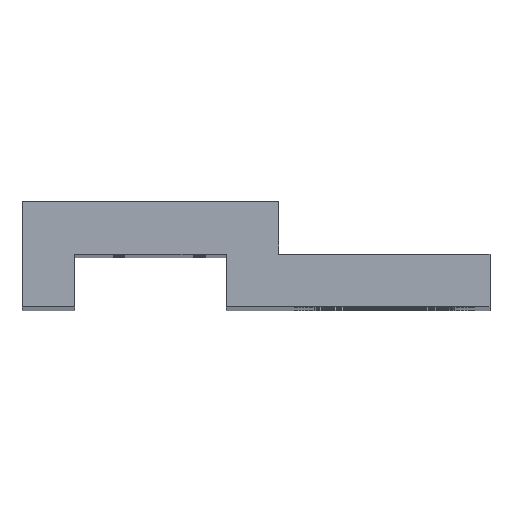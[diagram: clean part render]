
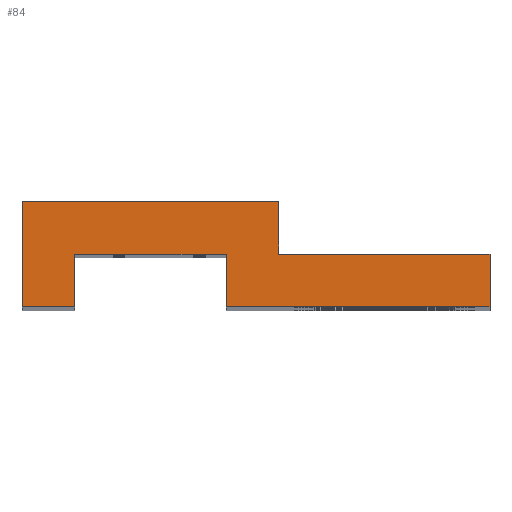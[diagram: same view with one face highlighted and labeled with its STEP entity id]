
A CAD part, top view. The second image highlights one B-rep face of the part: STEP entity #84.
In plain terms, the highlighted planar face has unit normal (0, 0, 1).
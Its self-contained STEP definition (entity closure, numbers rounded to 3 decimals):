
#84=ADVANCED_FACE('',(#1709),#1711,.T.);
#1709=FACE_BOUND('',#1710,.T.);
#1710=EDGE_LOOP('',(#25399,#25400,#25401,#25402,#25403,#25404,#25405,#25406,#25407,
#25408));
#1711=PLANE('',#1712);
#1712=AXIS2_PLACEMENT_3D('',#1713,#1714,#1715);
#1713=CARTESIAN_POINT('',(0.,0.,610.));
#1714=DIRECTION('',(0.,0.,1.));
#1715=DIRECTION('',(-1.,0.,0.));
#25399=ORIENTED_EDGE('',*,*,#25702,.T.);
#25400=ORIENTED_EDGE('',*,*,#25703,.T.);
#25401=ORIENTED_EDGE('',*,*,#25704,.T.);
#25402=ORIENTED_EDGE('',*,*,#25705,.T.);
#25403=ORIENTED_EDGE('',*,*,#25706,.T.);
#25404=ORIENTED_EDGE('',*,*,#25596,.T.);
#25405=ORIENTED_EDGE('',*,*,#25701,.T.);
#25406=ORIENTED_EDGE('',*,*,#25630,.T.);
#25407=ORIENTED_EDGE('',*,*,#25707,.T.);
#25408=ORIENTED_EDGE('',*,*,#25708,.T.);
#25596=EDGE_CURVE('',#25789,#25787,#25790,.T.);
#25630=EDGE_CURVE('',#25857,#25855,#25858,.T.);
#25701=EDGE_CURVE('',#25787,#25857,#25972,.T.);
#25702=EDGE_CURVE('',#25973,#25974,#25975,.T.);
#25703=EDGE_CURVE('',#25974,#25976,#25977,.T.);
#25704=EDGE_CURVE('',#25976,#25978,#25979,.T.);
#25705=EDGE_CURVE('',#25978,#25980,#25981,.T.);
#25706=EDGE_CURVE('',#25980,#25789,#25982,.T.);
#25707=EDGE_CURVE('',#25855,#25983,#25984,.T.);
#25708=EDGE_CURVE('',#25983,#25973,#25985,.T.);
#25787=VERTEX_POINT('',#26135);
#25789=VERTEX_POINT('',#26139);
#25790=LINE('',#26140,#26141);
#25855=VERTEX_POINT('',#26289);
#25857=VERTEX_POINT('',#26293);
#25858=LINE('',#26294,#26295);
#25972=LINE('',#26575,#26576);
#25973=VERTEX_POINT('',#26578);
#25974=VERTEX_POINT('',#26579);
#25975=LINE('',#26580,#26581);
#25976=VERTEX_POINT('',#26583);
#25977=LINE('',#26584,#26585);
#25978=VERTEX_POINT('',#26587);
#25979=LINE('',#26588,#26589);
#25980=VERTEX_POINT('',#26591);
#25981=LINE('',#26592,#26593);
#25982=LINE('',#26595,#26596);
#25983=VERTEX_POINT('',#26598);
#25984=LINE('',#26599,#26600);
#25985=LINE('',#26602,#26603);
#26135=CARTESIAN_POINT('',(94.,9.,610.));
#26139=CARTESIAN_POINT('',(19.,9.,610.));
#26140=CARTESIAN_POINT('',(19.,9.,610.));
#26141=VECTOR('',#26142,1.);
#26142=DIRECTION('',(1.,0.,0.));
#26289=CARTESIAN_POINT('',(34.,24.,610.));
#26293=CARTESIAN_POINT('',(94.,24.,610.));
#26294=CARTESIAN_POINT('',(94.,24.,610.));
#26295=VECTOR('',#26296,1.);
#26296=DIRECTION('',(-1.,0.,0.));
#26575=CARTESIAN_POINT('',(94.,9.,610.));
#26576=VECTOR('',#26577,1.);
#26577=DIRECTION('',(0.,1.,0.));
#26578=CARTESIAN_POINT('',(-39.,39.,610.));
#26579=CARTESIAN_POINT('',(-39.,9.,610.));
#26580=CARTESIAN_POINT('',(-39.,39.,610.));
#26581=VECTOR('',#26582,1.);
#26582=DIRECTION('',(0.,-1.,0.));
#26583=CARTESIAN_POINT('',(-24.,9.,610.));
#26584=CARTESIAN_POINT('',(-39.,9.,610.));
#26585=VECTOR('',#26586,1.);
#26586=DIRECTION('',(1.,0.,0.));
#26587=CARTESIAN_POINT('',(-24.,24.,610.));
#26588=CARTESIAN_POINT('',(-24.,9.,610.));
#26589=VECTOR('',#26590,1.);
#26590=DIRECTION('',(0.,1.,0.));
#26591=CARTESIAN_POINT('',(19.,24.,610.));
#26592=CARTESIAN_POINT('',(-24.,24.,610.));
#26593=VECTOR('',#26594,1.);
#26594=DIRECTION('',(1.,0.,0.));
#26595=CARTESIAN_POINT('',(19.,24.,610.));
#26596=VECTOR('',#26597,1.);
#26597=DIRECTION('',(0.,-1.,0.));
#26598=CARTESIAN_POINT('',(34.,39.,610.));
#26599=CARTESIAN_POINT('',(34.,24.,610.));
#26600=VECTOR('',#26601,1.);
#26601=DIRECTION('',(0.,1.,0.));
#26602=CARTESIAN_POINT('',(34.,39.,610.));
#26603=VECTOR('',#26604,1.);
#26604=DIRECTION('',(-1.,0.,0.));
